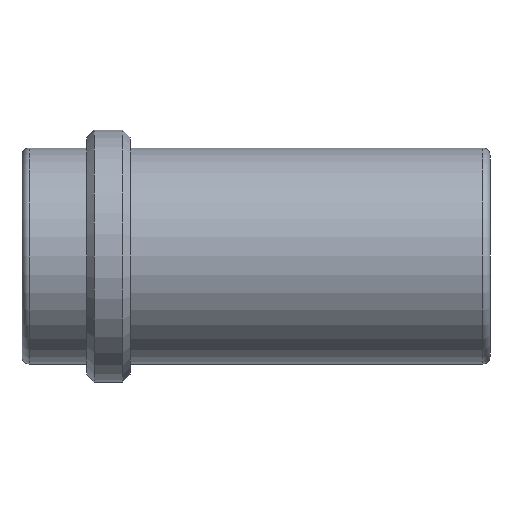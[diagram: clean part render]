
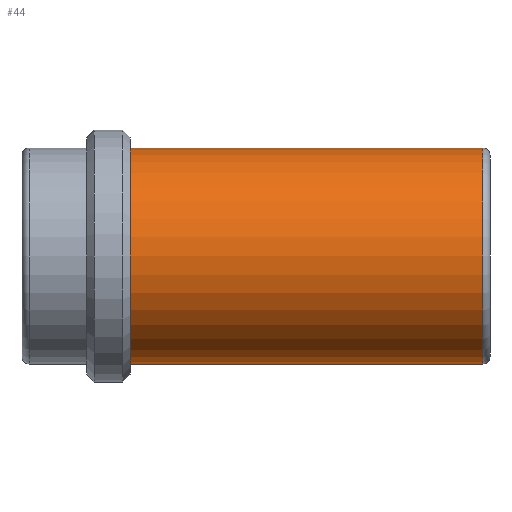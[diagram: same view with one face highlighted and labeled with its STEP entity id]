
A CAD part, front view. The second image highlights one B-rep face of the part: STEP entity #44.
In plain terms, the highlighted cylindrical face has radius 15 mm (diameter 30 mm), a partial arc.
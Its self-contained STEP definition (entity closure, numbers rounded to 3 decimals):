
#11 = DIRECTION ( 'NONE',  ( -1., 0., 0. ) ) ;
#18 = CARTESIAN_POINT ( 'NONE',  ( 15., 0., -15. ) ) ;
#23 = CARTESIAN_POINT ( 'NONE',  ( 64., 0., 15. ) ) ;
#27 = CARTESIAN_POINT ( 'NONE',  ( 0., 0., 15. ) ) ;
#33 = AXIS2_PLACEMENT_3D ( 'NONE', #258, #468, #169 ) ;
#44 = ADVANCED_FACE ( 'NONE', ( #72 ), #165, .T. ) ;
#53 = DIRECTION ( 'NONE',  ( -1., 0., 0. ) ) ;
#72 = FACE_OUTER_BOUND ( 'NONE', #313, .T. ) ;
#76 = VECTOR ( 'NONE', #450, 1000. ) ;
#83 = CIRCLE ( 'NONE', #575, 15. ) ;
#87 = CARTESIAN_POINT ( 'NONE',  ( 0., 0., -15. ) ) ;
#107 = LINE ( 'NONE', #87, #76 ) ;
#128 = VERTEX_POINT ( 'NONE', #23 ) ;
#134 = ORIENTED_EDGE ( 'NONE', *, *, #320, .F. ) ;
#137 = CARTESIAN_POINT ( 'NONE',  ( 15., 0., 15. ) ) ;
#138 = ORIENTED_EDGE ( 'NONE', *, *, #279, .T. ) ;
#165 = CYLINDRICAL_SURFACE ( 'NONE', #33, 15. ) ;
#169 = DIRECTION ( 'NONE',  ( 0., 0., 1. ) ) ;
#197 = EDGE_CURVE ( 'NONE', #343, #393, #107, .T. ) ;
#238 = ORIENTED_EDGE ( 'NONE', *, *, #296, .T. ) ;
#245 = VECTOR ( 'NONE', #543, 1000. ) ;
#258 = CARTESIAN_POINT ( 'NONE',  ( 0., 0., 0. ) ) ;
#279 = EDGE_CURVE ( 'NONE', #343, #128, #474, .T. ) ;
#296 = EDGE_CURVE ( 'NONE', #128, #329, #336, .T. ) ;
#304 = DIRECTION ( 'NONE',  ( 0., 0., 1. ) ) ;
#306 = CARTESIAN_POINT ( 'NONE',  ( 15., 0., 0. ) ) ;
#313 = EDGE_LOOP ( 'NONE', ( #328, #138, #238, #134 ) ) ;
#320 = EDGE_CURVE ( 'NONE', #393, #329, #83, .T. ) ;
#328 = ORIENTED_EDGE ( 'NONE', *, *, #197, .F. ) ;
#329 = VERTEX_POINT ( 'NONE', #137 ) ;
#336 = LINE ( 'NONE', #27, #245 ) ;
#343 = VERTEX_POINT ( 'NONE', #471 ) ;
#393 = VERTEX_POINT ( 'NONE', #18 ) ;
#443 = CARTESIAN_POINT ( 'NONE',  ( 64., 0., 0. ) ) ;
#450 = DIRECTION ( 'NONE',  ( -1., 0., 0. ) ) ;
#452 = DIRECTION ( 'NONE',  ( 0., 0., 1. ) ) ;
#468 = DIRECTION ( 'NONE',  ( -1., 0., 0. ) ) ;
#471 = CARTESIAN_POINT ( 'NONE',  ( 64., 0., -15. ) ) ;
#474 = CIRCLE ( 'NONE', #556, 15. ) ;
#543 = DIRECTION ( 'NONE',  ( -1., 0., 0. ) ) ;
#556 = AXIS2_PLACEMENT_3D ( 'NONE', #443, #11, #304 ) ;
#575 = AXIS2_PLACEMENT_3D ( 'NONE', #306, #53, #452 ) ;
